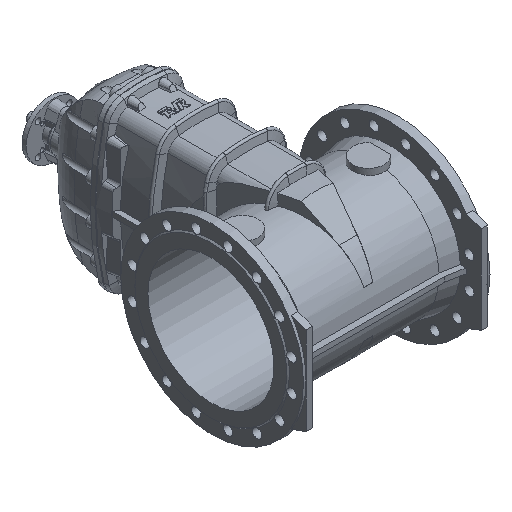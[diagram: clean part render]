
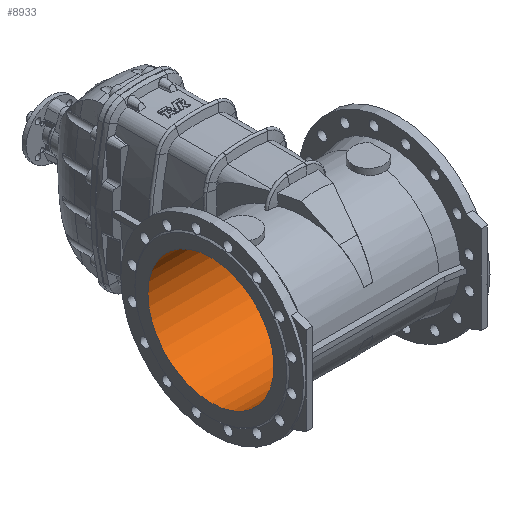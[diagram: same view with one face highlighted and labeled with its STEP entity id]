
A CAD part, isometric view. The second image highlights one B-rep face of the part: STEP entity #8933.
In plain terms, the highlighted cylindrical face has radius 200 mm (diameter 400 mm), a full revolution.
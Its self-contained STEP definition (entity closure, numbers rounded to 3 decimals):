
#506 = CARTESIAN_POINT ( 'NONE',  ( 300., 0., -200. ) ) ;
#546 = CARTESIAN_POINT ( 'NONE',  ( -300., 0., 200. ) ) ;
#657 = CIRCLE ( 'NONE', #4227, 200. ) ;
#1459 = FACE_OUTER_BOUND ( 'NONE', #7673, .T. ) ;
#1463 = FACE_OUTER_BOUND ( 'NONE', #7704, .T. ) ;
#1469 = CYLINDRICAL_SURFACE ( 'NONE', #4138, 200. ) ;
#2275 = AXIS2_PLACEMENT_3D ( 'NONE', #16658, #16646, #16718 ) ;
#2342 = EDGE_CURVE ( 'NONE', #16272, #16272, #18029, .T. ) ;
#4138 = AXIS2_PLACEMENT_3D ( 'NONE', #14835, #14836, #14833 ) ;
#4227 = AXIS2_PLACEMENT_3D ( 'NONE', #11292, #11293, #11294 ) ;
#4689 = EDGE_CURVE ( 'NONE', #16335, #16335, #657, .T. ) ;
#7673 = EDGE_LOOP ( 'NONE', ( #14008 ) ) ;
#7704 = EDGE_LOOP ( 'NONE', ( #14007 ) ) ;
#8933 = ADVANCED_FACE ( 'NONE', ( #1459, #1463 ), #1469, .F. ) ;
#11292 = CARTESIAN_POINT ( 'NONE',  ( -300., 0., 0. ) ) ;
#11293 = DIRECTION ( 'NONE',  ( 1., 0., 0. ) ) ;
#11294 = DIRECTION ( 'NONE',  ( 0., 0., 1. ) ) ;
#14007 = ORIENTED_EDGE ( 'NONE', *, *, #4689, .F. ) ;
#14008 = ORIENTED_EDGE ( 'NONE', *, *, #2342, .T. ) ;
#14833 = DIRECTION ( 'NONE',  ( 0., 0., -1. ) ) ;
#14835 = CARTESIAN_POINT ( 'NONE',  ( -865.685, 0., 0. ) ) ;
#14836 = DIRECTION ( 'NONE',  ( 1., 0., 0. ) ) ;
#16272 = VERTEX_POINT ( 'NONE', #506 ) ;
#16335 = VERTEX_POINT ( 'NONE', #546 ) ;
#16646 = DIRECTION ( 'NONE',  ( 1., 0., 0. ) ) ;
#16658 = CARTESIAN_POINT ( 'NONE',  ( 300., 0., 0. ) ) ;
#16718 = DIRECTION ( 'NONE',  ( 0., 0., -1. ) ) ;
#18029 = CIRCLE ( 'NONE', #2275, 200. ) ;
